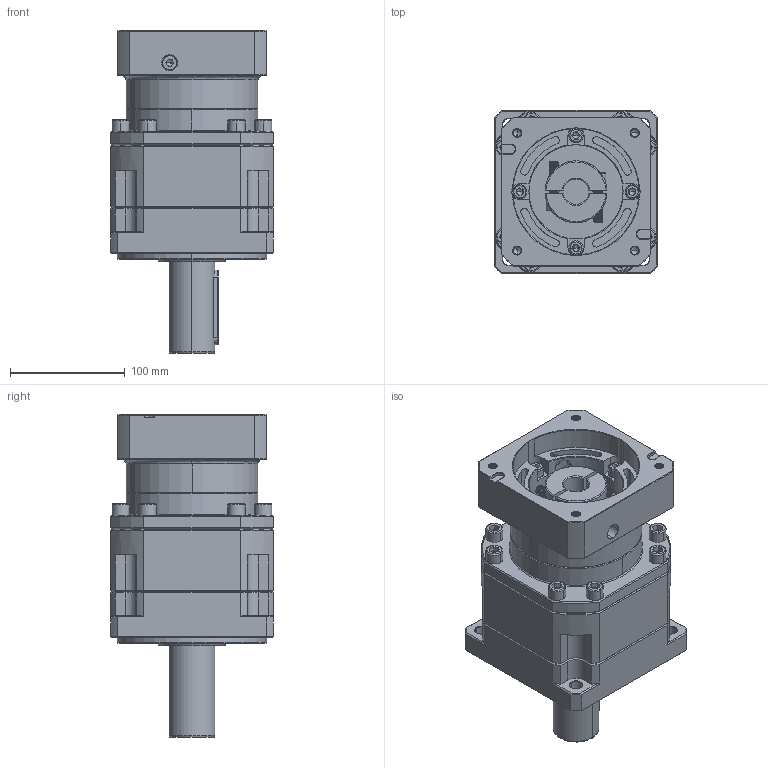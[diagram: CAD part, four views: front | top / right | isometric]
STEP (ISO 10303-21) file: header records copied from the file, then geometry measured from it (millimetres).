
FILE_DESCRIPTION (( 'STEP AP214' ), '1' );
FILE_NAME ('ZB142A-D40-L2-22-110-145-M8.step', '2023-03-18T07:04:28', ( '' ), ( '' ), 'SwSTEP 2.0', 'SolidWorks 2016', '' );
FILE_SCHEMA (( 'AUTOMOTIVE_DESIGN' ));
Length unit declared in the file: millimetre
Products named in the file (1): ZB142A-D40-L2-22-110-145-M8
Bounding box: 142 x 142 x 281.2 mm (x, y, z)
Volume: 2953316.8 mm3; surface area: 255309.1 mm2
Topology: 6 solids, 6 shells, 2322 faces, 6020 edges, 3813 vertices
Faces by surface type: plane 1051, cylinder 517, cone 389, bspline 309, torus 56
Entity records: 123263 total; most frequent: CARTESIAN_POINT 43620, ORIENTED_EDGE 11932, DIRECTION 10141, EDGE_CURVE 5966, VERTEX_POINT 3813, LINE 3665, VECTOR 3665, AXIS2_PLACEMENT_3D 3238
